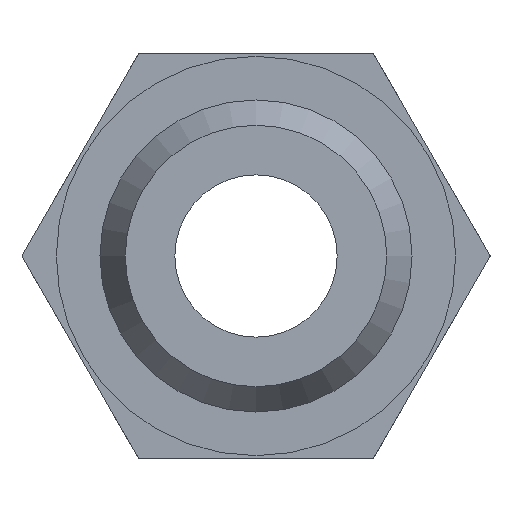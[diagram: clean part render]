
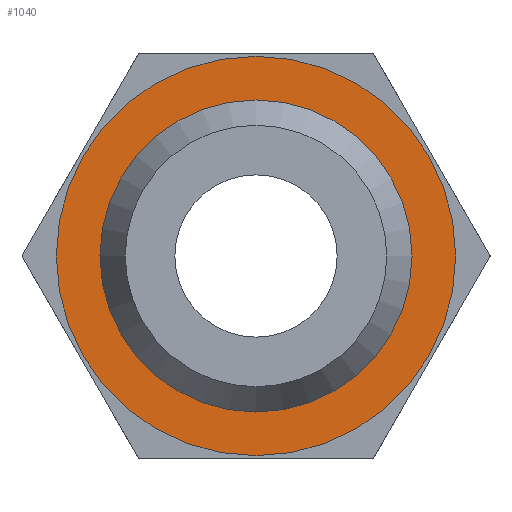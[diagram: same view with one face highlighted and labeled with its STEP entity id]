
A CAD part, front view. The second image highlights one B-rep face of the part: STEP entity #1040.
In plain terms, the highlighted planar face has unit normal (0, -1, 0).
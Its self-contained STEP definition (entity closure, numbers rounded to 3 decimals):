
#150=CARTESIAN_POINT('',(5.0,5.5,0.0));
#151=VERTEX_POINT('',#150);
#152=CARTESIAN_POINT('',(0.0,5.5,0.0));
#153=DIRECTION('',(0.0,-1.0,0.0));
#154=DIRECTION('',(1.0,0.0,0.0));
#155=AXIS2_PLACEMENT_3D('',#152,#153,#154);
#156=CIRCLE('',#155,5.0);
#157=EDGE_CURVE('',#151,#151,#156,.T.);
#1014=CARTESIAN_POINT('',(6.4,5.5,0.0));
#1015=VERTEX_POINT('',#1014);
#1016=CARTESIAN_POINT('',(0.0,5.5,0.0));
#1017=DIRECTION('',(0.0,-1.0,0.0));
#1018=DIRECTION('',(1.0,0.0,0.0));
#1019=AXIS2_PLACEMENT_3D('',#1016,#1017,#1018);
#1020=CIRCLE('',#1019,6.4);
#1021=EDGE_CURVE('',#1015,#1015,#1020,.T.);
#1029=CARTESIAN_POINT('',(5.7,5.5,0.0));
#1030=DIRECTION('',(0.0,-1.0,0.0));
#1031=DIRECTION('',(0.0,0.0,-1.0));
#1032=AXIS2_PLACEMENT_3D('',#1029,#1030,#1031);
#1033=PLANE('',#1032);
#1034=ORIENTED_EDGE('',*,*,#1021,.T.);
#1035=EDGE_LOOP('',(#1034));
#1036=FACE_OUTER_BOUND('',#1035,.T.);
#1037=ORIENTED_EDGE('',*,*,#157,.F.);
#1038=EDGE_LOOP('',(#1037));
#1039=FACE_BOUND('',#1038,.T.);
#1040=ADVANCED_FACE('',(#1036,#1039),#1033,.T.);
